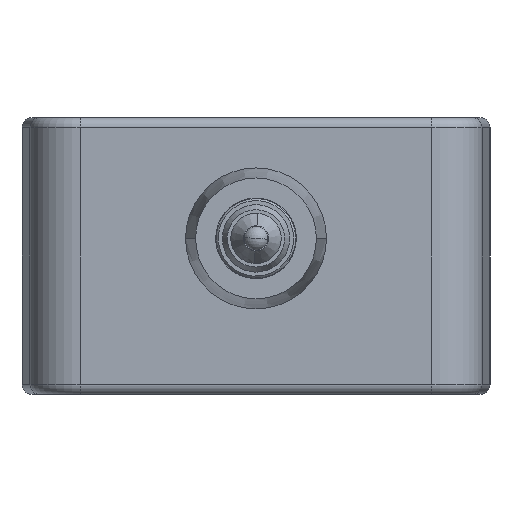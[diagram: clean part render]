
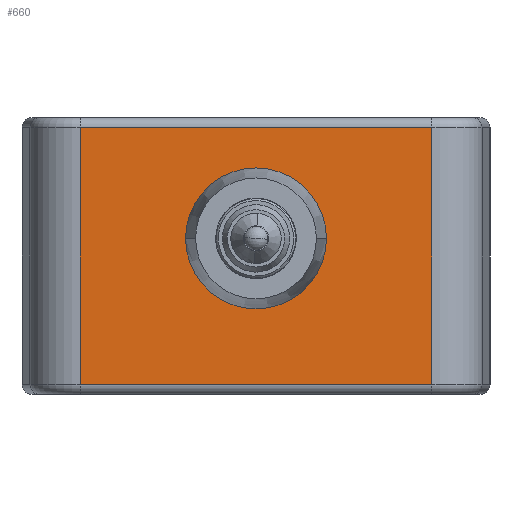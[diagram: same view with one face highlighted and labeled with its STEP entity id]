
A CAD part, front view. The second image highlights one B-rep face of the part: STEP entity #660.
In plain terms, the highlighted planar face has unit normal (0, -1, 0).
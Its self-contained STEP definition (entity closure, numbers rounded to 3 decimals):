
#660=ADVANCED_FACE('NONE',(#1017,#1018),#776,.F.);
#776=PLANE('',#2448);
#833=LINE('',#3388,#931);
#848=LINE('',#3455,#946);
#849=LINE('',#3461,#947);
#850=LINE('',#3463,#948);
#931=VECTOR('',#2725,1.);
#946=VECTOR('',#2814,1.);
#947=VECTOR('',#2821,1.);
#948=VECTOR('',#2822,1.);
#1017=FACE_BOUND('',#1145,.T.);
#1018=FACE_BOUND('',#1146,.T.);
#1145=EDGE_LOOP('',(#1416,#1417));
#1146=EDGE_LOOP('',(#1418,#1419,#1420,#1421));
#1416=ORIENTED_EDGE('',*,*,#2058,.T.);
#1417=ORIENTED_EDGE('',*,*,#2059,.T.);
#1418=ORIENTED_EDGE('',*,*,#2057,.T.);
#1419=ORIENTED_EDGE('',*,*,#2060,.T.);
#1420=ORIENTED_EDGE('',*,*,#2061,.T.);
#1421=ORIENTED_EDGE('',*,*,#2023,.T.);
#1844=VERTEX_POINT('',#3389);
#1845=VERTEX_POINT('',#3390);
#1858=VERTEX_POINT('',#3454);
#1859=VERTEX_POINT('',#3458);
#1860=VERTEX_POINT('',#3459);
#1861=VERTEX_POINT('',#3462);
#2023=EDGE_CURVE('',#1844,#1845,#833,.T.);
#2057=EDGE_CURVE('',#1845,#1858,#848,.T.);
#2058=EDGE_CURVE('',#1859,#1860,#2277,.T.);
#2059=EDGE_CURVE('',#1860,#1859,#2278,.T.);
#2060=EDGE_CURVE('',#1858,#1861,#849,.T.);
#2061=EDGE_CURVE('',#1861,#1844,#850,.T.);
#2277=CIRCLE('',#2446,7.);
#2278=CIRCLE('',#2447,7.);
#2446=AXIS2_PLACEMENT_3D('',#3457,#2817,#2818);
#2447=AXIS2_PLACEMENT_3D('',#3460,#2819,#2820);
#2448=AXIS2_PLACEMENT_3D('',#3464,#2823,#2824);
#2725=DIRECTION('',(-1.,0.,0.));
#2814=DIRECTION('',(0.,0.,-1.));
#2817=DIRECTION('',(0.,1.,0.));
#2818=DIRECTION('',(0.,0.,1.));
#2819=DIRECTION('',(0.,1.,0.));
#2820=DIRECTION('',(0.,0.,1.));
#2821=DIRECTION('',(1.,0.,0.));
#2822=DIRECTION('',(0.,0.,1.));
#2823=DIRECTION('',(0.,1.,0.));
#2824=DIRECTION('',(0.,0.,1.));
#3388=CARTESIAN_POINT('',(-18.939,426.247,11.));
#3389=CARTESIAN_POINT('',(14.82,426.247,11.));
#3390=CARTESIAN_POINT('',(-20.122,426.247,11.));
#3454=CARTESIAN_POINT('',(-20.122,426.247,-14.5));
#3455=CARTESIAN_POINT('',(-20.122,426.247,9.));
#3457=CARTESIAN_POINT('',(-2.651,426.247,0.));
#3458=CARTESIAN_POINT('',(4.349,426.247,0.));
#3459=CARTESIAN_POINT('',(-9.651,426.247,0.));
#3460=CARTESIAN_POINT('',(-2.651,426.247,0.));
#3461=CARTESIAN_POINT('',(13.638,426.247,-14.5));
#3462=CARTESIAN_POINT('',(14.82,426.247,-14.5));
#3463=CARTESIAN_POINT('',(14.82,426.247,9.));
#3464=CARTESIAN_POINT('',(-20.122,426.247,9.));
